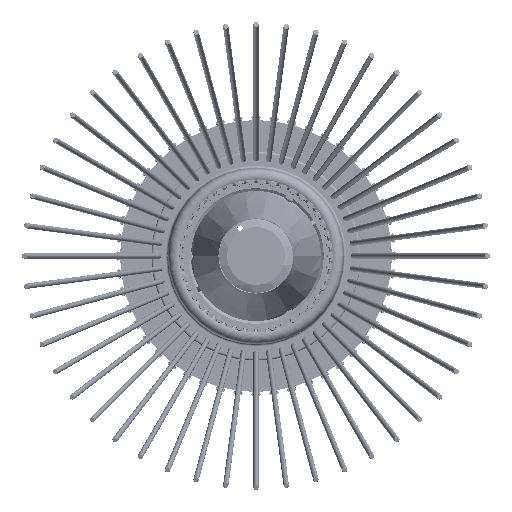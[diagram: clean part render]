
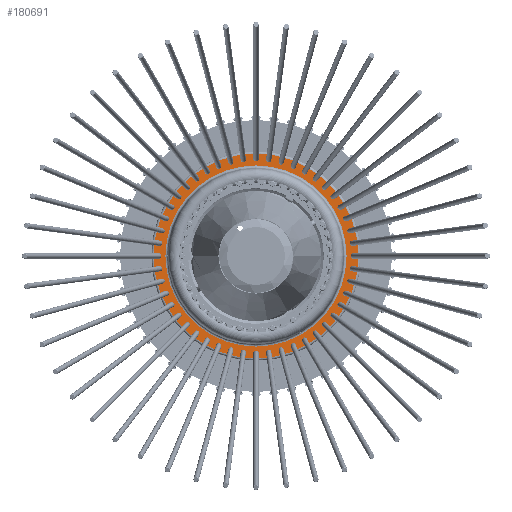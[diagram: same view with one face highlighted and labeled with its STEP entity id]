
A CAD part, front view. The second image highlights one B-rep face of the part: STEP entity #180691.
In plain terms, the highlighted planar face has unit normal (0, -1, 0).
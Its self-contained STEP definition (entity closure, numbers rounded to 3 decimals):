
#972 = DIRECTION ( 'NONE',  ( 0.866, 0., 0.5 ) ) ;
#10552 = DIRECTION ( 'NONE',  ( 0., 1., 0. ) ) ;
#12042 = DIRECTION ( 'NONE',  ( 0.866, 0., 0.5 ) ) ;
#14752 = CIRCLE ( 'NONE', #410907, 2.25 ) ;
#14855 = DIRECTION ( 'NONE',  ( 0., 1., 0. ) ) ;
#15072 = EDGE_CURVE ( 'NONE', #333195, #353006, #350102, .T. ) ;
#15380 = CARTESIAN_POINT ( 'NONE',  ( -144.051, -26.5, 1.125 ) ) ;
#16338 = CARTESIAN_POINT ( 'NONE',  ( 0., -26.5, 0. ) ) ;
#23122 = CARTESIAN_POINT ( 'NONE',  ( -146., -26.5, 0. ) ) ;
#28605 = VERTEX_POINT ( 'NONE', #15380 ) ;
#36182 = AXIS2_PLACEMENT_3D ( 'NONE', #401861, #304282, #972 ) ;
#36397 = DIRECTION ( 'NONE',  ( 0., 1., 0. ) ) ;
#37987 = VERTEX_POINT ( 'NONE', #300511 ) ;
#38657 = EDGE_CURVE ( 'NONE', #28605, #185286, #14752, .T. ) ;
#42873 = DIRECTION ( 'NONE',  ( 0.866, 0., 0.5 ) ) ;
#45064 = CARTESIAN_POINT ( 'NONE',  ( 0., -26.5, 0. ) ) ;
#49463 = EDGE_CURVE ( 'NONE', #185286, #28605, #273462, .T. ) ;
#49832 = CARTESIAN_POINT ( 'NONE',  ( 71.051, -26.5, -127.565 ) ) ;
#52632 = FACE_BOUND ( 'NONE', #119298, .T. ) ;
#55017 = CARTESIAN_POINT ( 'NONE',  ( 74.949, -26.5, -125.315 ) ) ;
#65429 = CARTESIAN_POINT ( 'NONE',  ( -146., -26.5, 0. ) ) ;
#69015 = EDGE_CURVE ( 'NONE', #213512, #350452, #219364, .T. ) ;
#70809 = ORIENTED_EDGE ( 'NONE', *, *, #319198, .F. ) ;
#72567 = DIRECTION ( 'NONE',  ( -0.866, 0., -0.5 ) ) ;
#77596 = CIRCLE ( 'NONE', #409946, 134.847 ) ;
#77783 = AXIS2_PLACEMENT_3D ( 'NONE', #426568, #351307, #247340 ) ;
#81127 = ORIENTED_EDGE ( 'NONE', *, *, #249111, .F. ) ;
#84888 = DIRECTION ( 'NONE',  ( 0., -1., 0. ) ) ;
#86602 = CARTESIAN_POINT ( 'NONE',  ( 0., -26.5, 0. ) ) ;
#87492 = CARTESIAN_POINT ( 'NONE',  ( 71.051, -26.5, 125.315 ) ) ;
#87933 = FACE_BOUND ( 'NONE', #282508, .T. ) ;
#88145 = EDGE_CURVE ( 'NONE', #193780, #37987, #93212, .T. ) ;
#88278 = DIRECTION ( 'NONE',  ( -0.866, 0., -0.5 ) ) ;
#88438 = AXIS2_PLACEMENT_3D ( 'NONE', #16338, #84888, #12042 ) ;
#91629 = DIRECTION ( 'NONE',  ( 0., 1., 0. ) ) ;
#91854 = AXIS2_PLACEMENT_3D ( 'NONE', #370690, #36397, #171308 ) ;
#93212 = CIRCLE ( 'NONE', #234615, 152.5 ) ;
#95222 = AXIS2_PLACEMENT_3D ( 'NONE', #253998, #14855, #384626 ) ;
#95976 = DIRECTION ( 'NONE',  ( -0.866, 0., -0.5 ) ) ;
#98533 = CARTESIAN_POINT ( 'NONE',  ( 116.781, -26.5, 67.424 ) ) ;
#113037 = CIRCLE ( 'NONE', #91854, 2.25 ) ;
#114272 = EDGE_CURVE ( 'NONE', #353006, #333195, #113037, .T. ) ;
#114598 = FACE_BOUND ( 'NONE', #328306, .T. ) ;
#115701 = DIRECTION ( 'NONE',  ( 0., -1., 0. ) ) ;
#116809 = FACE_OUTER_BOUND ( 'NONE', #352033, .T. ) ;
#118131 = EDGE_LOOP ( 'NONE', ( #325154, #344633 ) ) ;
#119298 = EDGE_LOOP ( 'NONE', ( #323985, #354045 ) ) ;
#130024 = CIRCLE ( 'NONE', #271753, 2.25 ) ;
#130034 = EDGE_CURVE ( 'NONE', #37987, #193780, #251012, .T. ) ;
#145611 = VERTEX_POINT ( 'NONE', #98533 ) ;
#145808 = PLANE ( 'NONE',  #356640 ) ;
#159737 = CARTESIAN_POINT ( 'NONE',  ( -116.781, -26.5, -67.424 ) ) ;
#160189 = AXIS2_PLACEMENT_3D ( 'NONE', #65429, #256703, #88278 ) ;
#171308 = DIRECTION ( 'NONE',  ( -0.866, 0., -0.5 ) ) ;
#176557 = CARTESIAN_POINT ( 'NONE',  ( 73., -26.5, 126.44 ) ) ;
#177674 = CIRCLE ( 'NONE', #36182, 134.847 ) ;
#180691 = ADVANCED_FACE ( 'NONE', ( #311793, #116809, #114598, #87933, #52632 ), #145808, .F. ) ;
#185286 = VERTEX_POINT ( 'NONE', #432086 ) ;
#193780 = VERTEX_POINT ( 'NONE', #288683 ) ;
#197819 = EDGE_CURVE ( 'NONE', #350452, #213512, #130024, .T. ) ;
#213512 = VERTEX_POINT ( 'NONE', #318076 ) ;
#214488 = ORIENTED_EDGE ( 'NONE', *, *, #88145, .T. ) ;
#219364 = CIRCLE ( 'NONE', #77783, 2.25 ) ;
#234615 = AXIS2_PLACEMENT_3D ( 'NONE', #45064, #115701, #42873 ) ;
#247340 = DIRECTION ( 'NONE',  ( -0.866, 0., -0.5 ) ) ;
#249111 = EDGE_CURVE ( 'NONE', #279177, #145611, #177674, .T. ) ;
#251012 = CIRCLE ( 'NONE', #88438, 152.5 ) ;
#253851 = ORIENTED_EDGE ( 'NONE', *, *, #130034, .T. ) ;
#253998 = CARTESIAN_POINT ( 'NONE',  ( 73., -26.5, -126.44 ) ) ;
#256703 = DIRECTION ( 'NONE',  ( 0., 1., 0. ) ) ;
#271753 = AXIS2_PLACEMENT_3D ( 'NONE', #176557, #10552, #72567 ) ;
#273462 = CIRCLE ( 'NONE', #160189, 2.25 ) ;
#279177 = VERTEX_POINT ( 'NONE', #159737 ) ;
#280819 = DIRECTION ( 'NONE',  ( -0.866, 0., -0.5 ) ) ;
#282508 = EDGE_LOOP ( 'NONE', ( #330532, #401923 ) ) ;
#283895 = DIRECTION ( 'NONE',  ( 0., -1., 0. ) ) ;
#288683 = CARTESIAN_POINT ( 'NONE',  ( 132.069, -26.5, 76.25 ) ) ;
#300511 = CARTESIAN_POINT ( 'NONE',  ( -132.069, -26.5, -76.25 ) ) ;
#304282 = DIRECTION ( 'NONE',  ( 0., -1., 0. ) ) ;
#311793 = FACE_BOUND ( 'NONE', #118131, .T. ) ;
#318076 = CARTESIAN_POINT ( 'NONE',  ( 74.949, -26.5, 127.565 ) ) ;
#319198 = EDGE_CURVE ( 'NONE', #145611, #279177, #77596, .T. ) ;
#323985 = ORIENTED_EDGE ( 'NONE', *, *, #38657, .T. ) ;
#325154 = ORIENTED_EDGE ( 'NONE', *, *, #69015, .T. ) ;
#328306 = EDGE_LOOP ( 'NONE', ( #70809, #81127 ) ) ;
#330532 = ORIENTED_EDGE ( 'NONE', *, *, #114272, .T. ) ;
#333195 = VERTEX_POINT ( 'NONE', #49832 ) ;
#344633 = ORIENTED_EDGE ( 'NONE', *, *, #197819, .T. ) ;
#350102 = CIRCLE ( 'NONE', #95222, 2.25 ) ;
#350452 = VERTEX_POINT ( 'NONE', #87492 ) ;
#351307 = DIRECTION ( 'NONE',  ( 0., 1., 0. ) ) ;
#352033 = EDGE_LOOP ( 'NONE', ( #214488, #253851 ) ) ;
#353006 = VERTEX_POINT ( 'NONE', #55017 ) ;
#353728 = DIRECTION ( 'NONE',  ( 0., 1., 0. ) ) ;
#354045 = ORIENTED_EDGE ( 'NONE', *, *, #49463, .T. ) ;
#356640 = AXIS2_PLACEMENT_3D ( 'NONE', #384811, #353728, #280819 ) ;
#370690 = CARTESIAN_POINT ( 'NONE',  ( 73., -26.5, -126.44 ) ) ;
#384626 = DIRECTION ( 'NONE',  ( -0.866, 0., -0.5 ) ) ;
#384811 = CARTESIAN_POINT ( 'NONE',  ( -116.781, -26.5, -67.424 ) ) ;
#401861 = CARTESIAN_POINT ( 'NONE',  ( 0., -26.5, 0. ) ) ;
#401923 = ORIENTED_EDGE ( 'NONE', *, *, #15072, .T. ) ;
#409946 = AXIS2_PLACEMENT_3D ( 'NONE', #86602, #283895, #419001 ) ;
#410907 = AXIS2_PLACEMENT_3D ( 'NONE', #23122, #91629, #95976 ) ;
#419001 = DIRECTION ( 'NONE',  ( 0.866, 0., 0.5 ) ) ;
#426568 = CARTESIAN_POINT ( 'NONE',  ( 73., -26.5, 126.44 ) ) ;
#432086 = CARTESIAN_POINT ( 'NONE',  ( -147.949, -26.5, -1.125 ) ) ;
